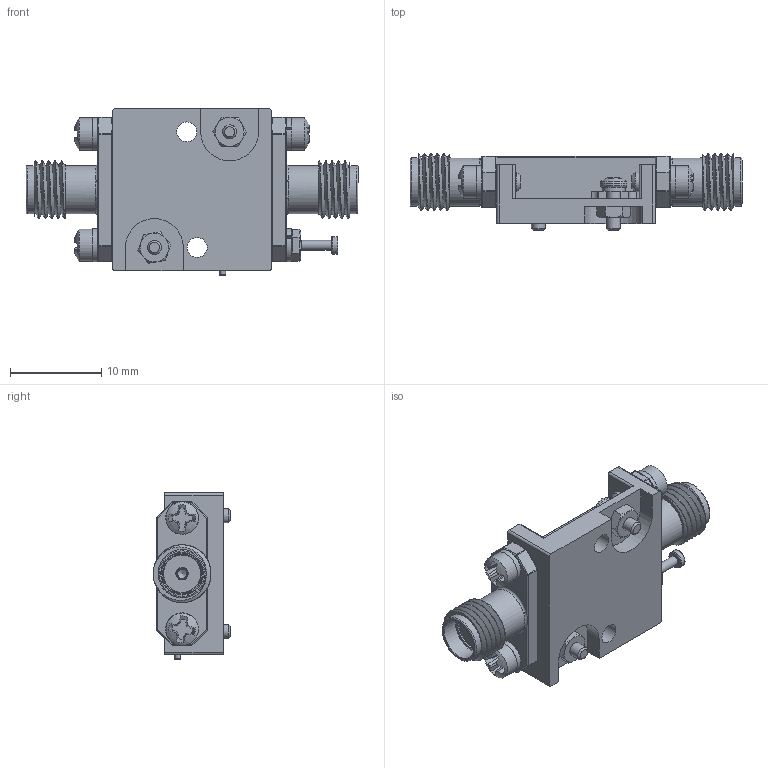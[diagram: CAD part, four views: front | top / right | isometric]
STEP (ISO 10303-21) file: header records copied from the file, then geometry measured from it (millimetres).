
FILE_DESCRIPTION (( 'STEP AP214' ), '1' );
FILE_NAME ('QSM-220-16-5-17-SFF.STEP', '2026-02-10T21:07:17', ( '' ), ( '' ), 'SwSTEP 2.0', 'SolidWorks 2025', '' );
FILE_SCHEMA (( 'AUTOMOTIVE_DESIGN' ));
Length unit declared in the file: millimetre
Products named in the file (1): QSM-220-16-5-17-SFF
Bounding box: 36.45 x 8.52 x 18.29 mm (x, y, z)
Volume: 2003.9 mm3; surface area: 4173.2 mm2
Topology: 36 solids, 36 shells, 917 faces, 3334 edges, 2611 vertices
Faces by surface type: plane 467, cylinder 229, torus 70, cone 66, sphere 65, bspline 20
Full cylindrical faces by diameter (mm): 0.305 x4, 0.508 x2, 0.635 x2, 0.762 x2, 0.889 x2, 1.016 x2, 1.067 x1, 1.18 x6, 1.27 x2, 1.295 x1, 1.524 x10, 1.6 x2, 1.676 x2, 1.778 x2, 1.93 x4, 1.981 x2, 2.007 x1, 2.184 x10, 2.489 x2, 2.515 x2, 2.591 x4, 2.896 x1, 2.946 x2, 3.302 x2, 3.556 x3, 4.191 x4, 4.597 x2, 5.283 x4
Entity records: 47290 total; most frequent: CARTESIAN_POINT 8634, ORIENTED_EDGE 6172, DIRECTION 5509, EDGE_CURVE 3086, VERTEX_POINT 2582, LINE 2143, VECTOR 2143, AXIS2_PLACEMENT_3D 1683
